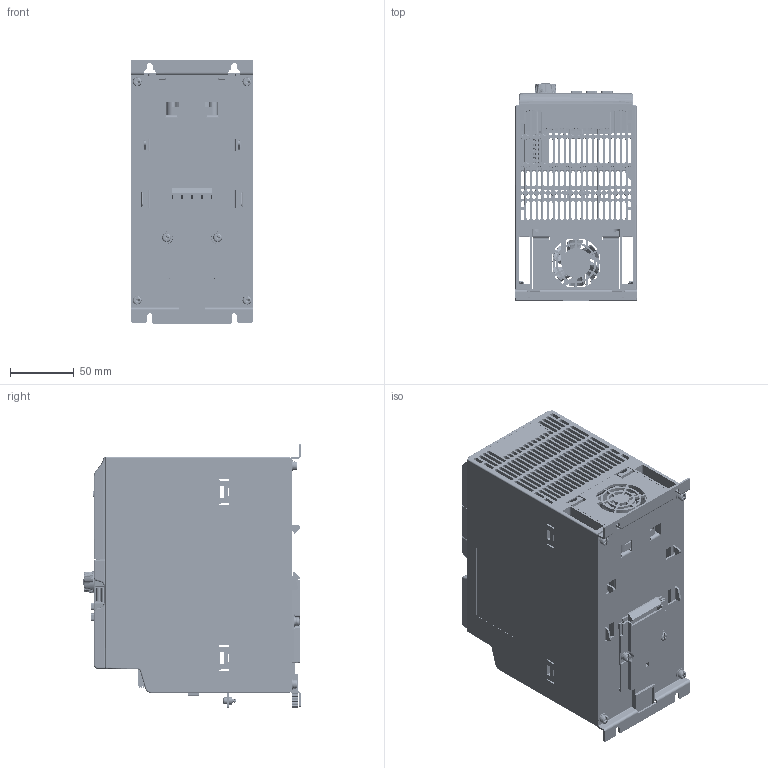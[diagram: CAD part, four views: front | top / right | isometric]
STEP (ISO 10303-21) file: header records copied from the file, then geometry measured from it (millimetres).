
FILE_DESCRIPTION((''),'2;1');
FILE_NAME('C_ASM','2018-03-21T',('zhi2xi'),(''),'PRO/ENGINEER BY PARAMETRIC TECHNOLOGY CORPORATION, 2009380','PRO/ENGINEER BY PARAMETRIC TECHNOLOGY CORPORATION, 2009380','');
FILE_SCHEMA(('CONFIG_CONTROL_DESIGN'));
Length unit declared in the file: millimetre
Products named in the file (58): R912005577_1; R912005576_1; MANIFOLD_SOLID_BREP_46507; MANIFOLD_SOLID_BREP_46693; MANIFOLD_SOLID_BREP_46879; MANIFOLD_SOLID_BREP_47081; MANIFOLD_SOLID_BREP_47283; MANIFOLD_SOLID_BREP_47485; MANIFOLD_SOLID_BREP_47687; C_DIBAN_1_ASM; D04G-24TH_1; MANIFOLD_SOLID_BREP_70613; MANIFOLD_SOLID_BREP_70870; MANIFOLD_SOLID_BREP_71127; MANIFOLD_SOLID_BREP_71384; MANIFOLD_SOLID_BREP_71641; MANIFOLD_SOLID_BREP_71898; MANIFOLD_SOLID_BREP_72155; MANIFOLD_SOLID_BREP_72412; MANIFOLD_SOLID_BREP_72669; GND_1_ASM; PL_EFC5610_IOCAE_CONVER_2; LK_YCP06-PLATINE_1; CPU_CONNECTOR-14P_1; CONNECTOR_1; CONNECTOR_TYCO-331_1; 548190519_1; CONNECT2-2_1; 2185-205SY3_1; 1155590000_1; LK_YCP06_ASM_1_ASM; DB272710_1; 01-IOBACK_CASE_1; LD_KCCT_M3X10_1; 01-IOCASE_ASM_1_ASM; 01_DISPLAYCASE_1; DISPLAY_PCB1_1; R911329772_1; R911330025_1; LED_1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
Assembly tree (72 placements, depth 5):
  C_ASM
    00_C_ASM_1_ASM
      R912005577_1
      R912005576_1
      C_DIBAN_1_ASM
        MANIFOLD_SOLID_BREP_46507
        MANIFOLD_SOLID_BREP_46693
        MANIFOLD_SOLID_BREP_46879
        MANIFOLD_SOLID_BREP_47081
        MANIFOLD_SOLID_BREP_47283
        MANIFOLD_SOLID_BREP_47485
        MANIFOLD_SOLID_BREP_47687
      D04G-24TH_1
      GND_1_ASM
        MANIFOLD_SOLID_BREP_70613
        MANIFOLD_SOLID_BREP_70870
        MANIFOLD_SOLID_BREP_71127
        MANIFOLD_SOLID_BREP_71384
        MANIFOLD_SOLID_BREP_71641
        MANIFOLD_SOLID_BREP_71898
        MANIFOLD_SOLID_BREP_72155
        MANIFOLD_SOLID_BREP_72412
        MANIFOLD_SOLID_BREP_72669
      01-IOCASE_ASM_1_ASM
        PL_EFC5610_IOCAE_CONVER_2
        LK_YCP06_ASM_1_ASM
          LK_YCP06-PLATINE_1
          CPU_CONNECTOR-14P_1
          CONNECTOR_1
          CONNECTOR_TYCO-331_1
          548190519_1
          CONNECT2-2_1
          2185-205SY3_1
          1155590000_1
        DB272710_1
        01-IOBACK_CASE_1
        LD_KCCT_M3X10_1  x2
      02-DISPLAY-CASE_ASM_1_ASM
        01_DISPLAYCASE_1
        DISPLAY_PCB_ASM_1_ASM
          DISPLAY_PCB1_1
          R911329772_1  x6
          R911330025_1
          LED_1
          CONNECTOR2_1
          CONNECTOR_TYCO-331_1
        BACK_CASE1_1
        R911330333_FOLIE_1
        BUUTTON_1
        XUAN_NIU_1
        LD_KCCT_M3X10_1  x2
        LABEL_15X50_1
      LOGO_REXROTH_1
      ASM0003_ASM_1_ASM
        PRT0010_1
        PRT0031_1
      LDZHJ_SZCYZT_M3X8_1  x2
      LDZHJ_SZCYZT_M4X10_1  x6
      STO_2_1
      EFC5610_1K5_CASE_RE_1
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Bounding box: 95 x 170.05 x 207.5 mm (x, y, z)
Volume: 548961.7 mm3; surface area: 557512.9 mm2
Topology: 63 solids, 86 shells, 11501 faces, 31243 edges, 20053 vertices
Faces by surface type: plane 6656, cylinder 3019, torus 620, bspline 594, cone 294, extrusion 153, sphere 145, revolution 20
Entity records: 439048 total; most frequent: CARTESIAN_POINT 105733, ORIENTED_EDGE 55644, DIRECTION 52052, EDGE_CURVE 27876, VECTOR 19096, LINE 18952, VERTEX_POINT 17976, AXIS2_PLACEMENT_3D 16468
